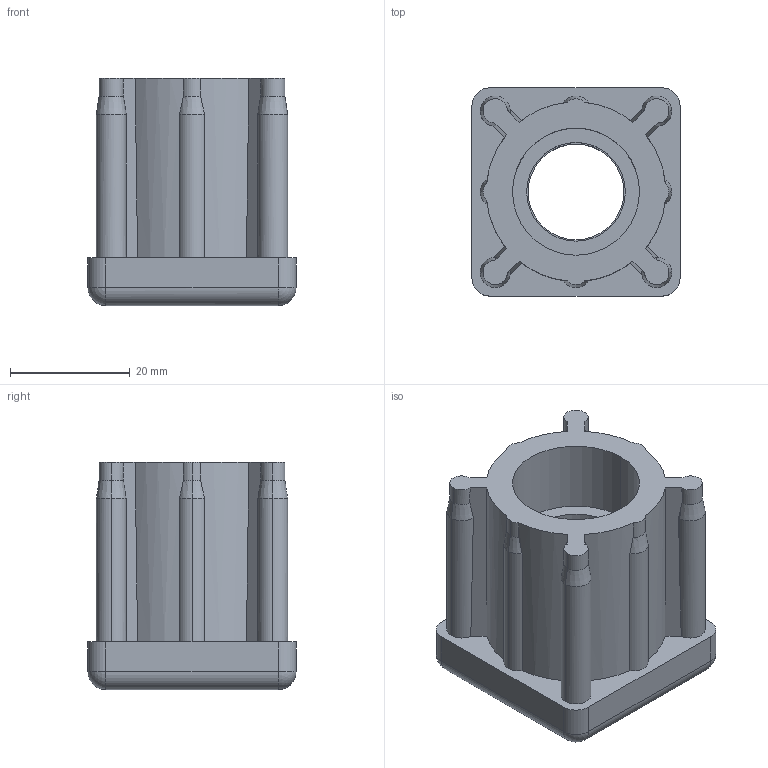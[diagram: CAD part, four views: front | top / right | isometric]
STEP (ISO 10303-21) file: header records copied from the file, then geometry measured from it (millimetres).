
FILE_DESCRIPTION (( 'STEP AP214' ), '1' );
FILE_NAME ('42006835216.STEP', '2020-02-26T10:29:51', ( '' ), ( '' ), 'SwSTEP 2.0', 'SolidWorks 2018', '' );
FILE_SCHEMA (( 'AUTOMOTIVE_DESIGN' ));
Length unit declared in the file: millimetre
Products named in the file (5): 68_7237.stp; 42006835216; BC_M16.stp; 42006835216.stp; Component1.stp
Assembly tree (4 placements, depth 4):
  42006835216
    42006835216.stp
      68_7237.stp
        Component1.stp
      BC_M16.stp
Bounding box: 34.8 x 34.8 x 38 mm (x, y, z)
Volume: 24166 mm3; surface area: 11360.3 mm2
Topology: 2 solids, 2 shells, 117 faces, 288 edges, 174 vertices
Faces by surface type: cylinder 62, cone 26, plane 19, torus 6, sphere 4
Entity records: 3649 total; most frequent: CARTESIAN_POINT 700, DIRECTION 654, ORIENTED_EDGE 568, EDGE_CURVE 284, AXIS2_PLACEMENT_3D 277, VERTEX_POINT 174, CIRCLE 151, EDGE_LOOP 124
